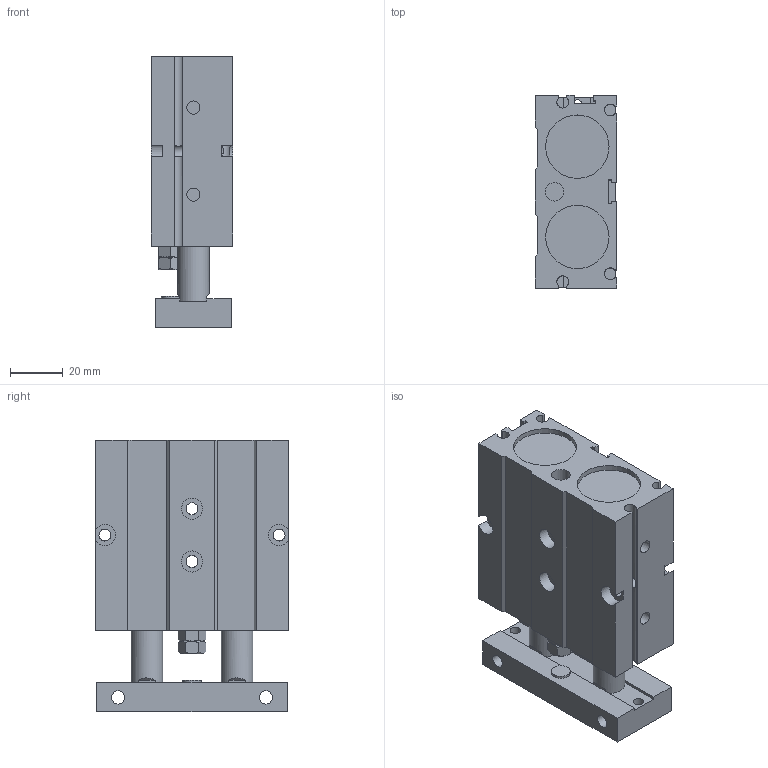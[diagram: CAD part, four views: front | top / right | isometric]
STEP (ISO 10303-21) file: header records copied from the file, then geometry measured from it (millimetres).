
FILE_DESCRIPTION((''),'2;1');
FILE_NAME('I:\3D電子目錄\氣缸\TD\TD25\TD25\TD25x10.stp','2007-08-06T09:53:50',('Administrator'),(''),'Autodesk Inventor 2008','Autodesk Inventor 2008','');
FILE_SCHEMA(('AUTOMOTIVE_DESIGN { 1 0 10303 214 1 1 1 1 }'));
Length unit declared in the file: millimetre
Products named in the file (1): TD25X10
Bounding box: 31 x 73 x 103 mm (x, y, z)
Volume: 170897.6 mm3; surface area: 36052.7 mm2
Topology: 1 solids, 3 shells, 185 faces, 476 edges, 312 vertices
Faces by surface type: plane 126, cylinder 46, cone 7, bspline 4, torus 2
Full cylindrical faces by diameter (mm): 4 x2, 4.5 x4, 5 x4, 7 x2, 8 x4, 10 x2, 11 x2, 12 x4, 24 x4
Entity records: 5781 total; most frequent: CARTESIAN_POINT 1413, DIRECTION 867, ORIENTED_EDGE 854, EDGE_CURVE 427, VERTEX_POINT 302, VECTOR 291, LINE 291, AXIS2_PLACEMENT_3D 288
